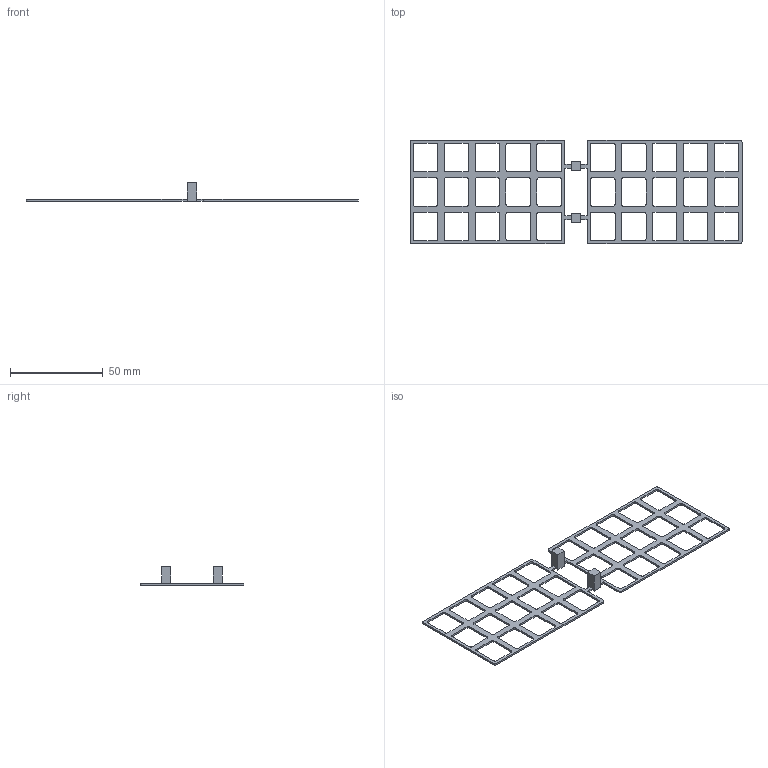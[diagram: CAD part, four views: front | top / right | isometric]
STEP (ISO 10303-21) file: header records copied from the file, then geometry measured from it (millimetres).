
FILE_DESCRIPTION(('Open CASCADE Model'),'2;1');
FILE_NAME('Open CASCADE Shape Model','2026-10-18T20:49:57',('Author'),( 'Open CASCADE'),'Open CASCADE STEP processor 7.9','Open CASCADE 7.9' ,'Unknown');
FILE_SCHEMA(('AUTOMOTIVE_DESIGN { 1 0 10303 214 1 1 1 1 }'));
Length unit declared in the file: millimetre
Products named in the file (1): Open CASCADE STEP translator 7.9 1
Bounding box: 179.04 x 55.68 x 10 mm (x, y, z)
Volume: 3718.3 mm3; surface area: 9170.1 mm2
Topology: 1 solids, 1 shells, 281 faces, 840 edges, 560 vertices
Faces by surface type: plane 153, cylinder 128
Entity records: 20720 total; most frequent: CARTESIAN_POINT 3782, DIRECTION 3240, LINE 1972, VECTOR 1972, ORIENTED_EDGE 1680, PCURVE 1680, DEFINITIONAL_REPRESENTATION 1680, EDGE_CURVE 840
